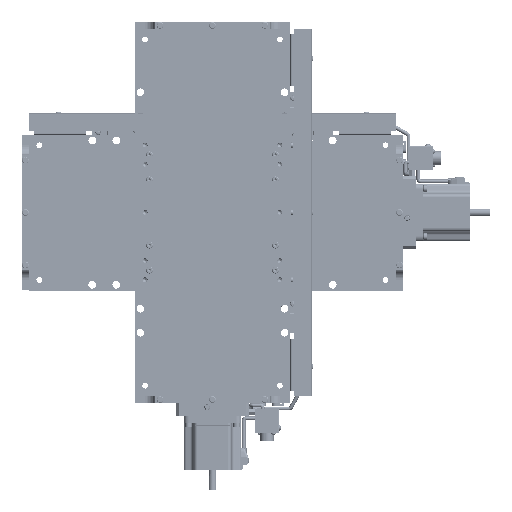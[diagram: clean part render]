
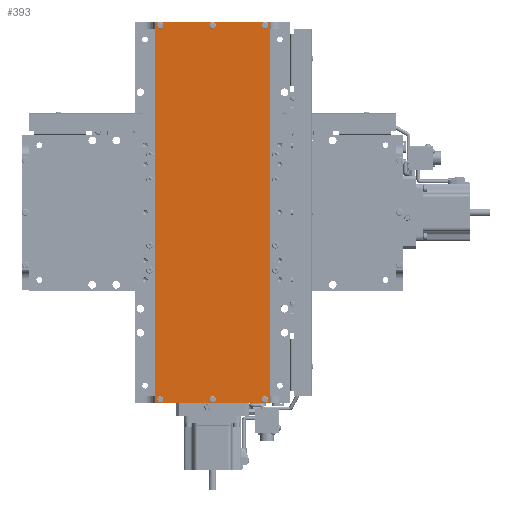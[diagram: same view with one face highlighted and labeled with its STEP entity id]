
A CAD part, top view. The second image highlights one B-rep face of the part: STEP entity #393.
In plain terms, the highlighted planar face has unit normal (0, 0, 1).
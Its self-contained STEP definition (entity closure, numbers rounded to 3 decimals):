
#393=ADVANCED_FACE('',(#7767,#7768,#7769,#7770,#7771,#7772,#7773),#7766,.T.);
#7766=PLANE('',#58397);
#7767=FACE_OUTER_BOUND('',#58398,.T.);
#7768=FACE_BOUND('',#58399,.T.);
#7769=FACE_BOUND('',#58400,.T.);
#7770=FACE_BOUND('',#58401,.T.);
#7771=FACE_BOUND('',#58402,.T.);
#7772=FACE_BOUND('',#58403,.T.);
#7773=FACE_BOUND('',#58404,.T.);
#58394=CARTESIAN_POINT('',(69.5,208.,122.5));
#58395=DIRECTION('',(0.,0.,1.));
#58396=DIRECTION('',(-1.,0.,0.));
#58397=AXIS2_PLACEMENT_3D('',#58394,#58395,#58396);
#58398=EDGE_LOOP('',(#90675,#90676,#90677,#90678,#90679,#90680));
#58399=EDGE_LOOP('',(#90681,#90682));
#58400=EDGE_LOOP('',(#90683,#90684));
#58401=EDGE_LOOP('',(#90685,#90686));
#58402=EDGE_LOOP('',(#90687,#90688));
#58403=EDGE_LOOP('',(#90689,#90690));
#58404=EDGE_LOOP('',(#90691,#90692));
#90675=ORIENTED_EDGE('',*,*,#115372,.T.);
#90676=ORIENTED_EDGE('',*,*,#115403,.T.);
#90677=ORIENTED_EDGE('',*,*,#115342,.T.);
#90678=ORIENTED_EDGE('',*,*,#115404,.T.);
#90679=ORIENTED_EDGE('',*,*,#115387,.F.);
#90680=ORIENTED_EDGE('',*,*,#115405,.T.);
#90681=ORIENTED_EDGE('',*,*,#115406,.F.);
#90682=ORIENTED_EDGE('',*,*,#115407,.F.);
#90683=ORIENTED_EDGE('',*,*,#115408,.F.);
#90684=ORIENTED_EDGE('',*,*,#115409,.F.);
#90685=ORIENTED_EDGE('',*,*,#115410,.F.);
#90686=ORIENTED_EDGE('',*,*,#115411,.F.);
#90687=ORIENTED_EDGE('',*,*,#115412,.F.);
#90688=ORIENTED_EDGE('',*,*,#115413,.F.);
#90689=ORIENTED_EDGE('',*,*,#115414,.F.);
#90690=ORIENTED_EDGE('',*,*,#115415,.F.);
#90691=ORIENTED_EDGE('',*,*,#115416,.F.);
#90692=ORIENTED_EDGE('',*,*,#115417,.F.);
#115342=EDGE_CURVE('',#132944,#133029,#133036,.T.);
#115372=EDGE_CURVE('',#133246,#133239,#133247,.T.);
#115387=EDGE_CURVE('',#133344,#133351,#133352,.T.);
#115403=EDGE_CURVE('',#133239,#132944,#133462,.T.);
#115404=EDGE_CURVE('',#133029,#133351,#133468,.T.);
#115405=EDGE_CURVE('',#133344,#133246,#133474,.T.);
#115406=EDGE_CURVE('',#133480,#133481,#133482,.T.);
#115407=EDGE_CURVE('',#133481,#133480,#133488,.T.);
#115408=EDGE_CURVE('',#133494,#133495,#133496,.T.);
#115409=EDGE_CURVE('',#133495,#133494,#133502,.T.);
#115410=EDGE_CURVE('',#133508,#133509,#133510,.T.);
#115411=EDGE_CURVE('',#133509,#133508,#133516,.T.);
#115412=EDGE_CURVE('',#133522,#133523,#133524,.T.);
#115413=EDGE_CURVE('',#133523,#133522,#133530,.T.);
#115414=EDGE_CURVE('',#133536,#133537,#133538,.T.);
#115415=EDGE_CURVE('',#133537,#133536,#133544,.T.);
#115416=EDGE_CURVE('',#133550,#133551,#133552,.T.);
#115417=EDGE_CURVE('',#133551,#133550,#133558,.T.);
#132944=VERTEX_POINT('',#213782);
#133029=VERTEX_POINT('',#213833);
#133036=LINE('',#213838,#213839);
#133239=VERTEX_POINT('',#213958);
#133246=VERTEX_POINT('',#213962);
#133247=LINE('',#213963,#213964);
#133344=VERTEX_POINT('',#214023);
#133351=VERTEX_POINT('',#214028);
#133352=LINE('',#214029,#214030);
#133462=LINE('',#214096,#214097);
#133468=LINE('',#214099,#214100);
#133474=LINE('',#214102,#214103);
#133480=VERTEX_POINT('',#214105);
#133481=VERTEX_POINT('',#214106);
#133482=CIRCLE('',#214110,3.495);
#133488=CIRCLE('',#214114,3.495);
#133494=VERTEX_POINT('',#214115);
#133495=VERTEX_POINT('',#214116);
#133496=CIRCLE('',#214120,3.495);
#133502=CIRCLE('',#214124,3.495);
#133508=VERTEX_POINT('',#214125);
#133509=VERTEX_POINT('',#214126);
#133510=CIRCLE('',#214130,3.495);
#133516=CIRCLE('',#214134,3.495);
#133522=VERTEX_POINT('',#214135);
#133523=VERTEX_POINT('',#214136);
#133524=CIRCLE('',#214140,3.495);
#133530=CIRCLE('',#214144,3.495);
#133536=VERTEX_POINT('',#214145);
#133537=VERTEX_POINT('',#214146);
#133538=CIRCLE('',#214150,3.495);
#133544=CIRCLE('',#214154,3.495);
#133550=VERTEX_POINT('',#214155);
#133551=VERTEX_POINT('',#214156);
#133552=CIRCLE('',#214160,3.495);
#133558=CIRCLE('',#214164,3.495);
#213782=CARTESIAN_POINT('',(35.,-198.,122.5));
#213833=CARTESIAN_POINT('',(59.5,-198.,122.5));
#213838=CARTESIAN_POINT('',(35.,-198.,122.5));
#213839=VECTOR('',#213840,24.5);
#213840=DIRECTION('',(1.,0.,0.));
#213958=CARTESIAN_POINT('',(-35.,-198.,122.5));
#213962=CARTESIAN_POINT('',(-59.5,-198.,122.5));
#213963=CARTESIAN_POINT('',(-59.5,-198.,122.5));
#213964=VECTOR('',#213965,24.5);
#213965=DIRECTION('',(1.,0.,0.));
#214023=CARTESIAN_POINT('',(-59.5,198.,122.5));
#214028=CARTESIAN_POINT('',(59.5,198.,122.5));
#214029=CARTESIAN_POINT('',(-59.5,198.,122.5));
#214030=VECTOR('',#214031,119.);
#214031=DIRECTION('',(1.,0.,0.));
#214096=CARTESIAN_POINT('',(-35.,-198.,122.5));
#214097=VECTOR('',#214098,70.);
#214098=DIRECTION('',(1.,0.,0.));
#214099=CARTESIAN_POINT('',(59.5,-198.,122.5));
#214100=VECTOR('',#214101,396.);
#214101=DIRECTION('',(0.,1.,0.));
#214102=CARTESIAN_POINT('',(-59.5,198.,122.5));
#214103=VECTOR('',#214104,396.);
#214104=DIRECTION('',(0.,-1.,0.));
#214105=CARTESIAN_POINT('',(3.495,194.5,122.5));
#214106=CARTESIAN_POINT('',(-3.495,194.5,122.5));
#214107=CARTESIAN_POINT('',(0.,194.5,122.5));
#214108=DIRECTION('',(0.,0.,1.));
#214109=DIRECTION('',(-1.,0.,0.));
#214110=AXIS2_PLACEMENT_3D('',#214107,#214108,#214109);
#214111=CARTESIAN_POINT('',(0.,194.5,122.5));
#214112=DIRECTION('',(0.,0.,1.));
#214113=DIRECTION('',(-1.,0.,0.));
#214114=AXIS2_PLACEMENT_3D('',#214111,#214112,#214113);
#214115=CARTESIAN_POINT('',(-51.005,194.5,122.5));
#214116=CARTESIAN_POINT('',(-57.995,194.5,122.5));
#214117=CARTESIAN_POINT('',(-54.5,194.5,122.5));
#214118=DIRECTION('',(0.,0.,1.));
#214119=DIRECTION('',(-1.,0.,0.));
#214120=AXIS2_PLACEMENT_3D('',#214117,#214118,#214119);
#214121=CARTESIAN_POINT('',(-54.5,194.5,122.5));
#214122=DIRECTION('',(0.,0.,1.));
#214123=DIRECTION('',(-1.,0.,0.));
#214124=AXIS2_PLACEMENT_3D('',#214121,#214122,#214123);
#214125=CARTESIAN_POINT('',(57.995,-194.5,122.5));
#214126=CARTESIAN_POINT('',(51.005,-194.5,122.5));
#214127=CARTESIAN_POINT('',(54.5,-194.5,122.5));
#214128=DIRECTION('',(0.,0.,1.));
#214129=DIRECTION('',(-1.,0.,0.));
#214130=AXIS2_PLACEMENT_3D('',#214127,#214128,#214129);
#214131=CARTESIAN_POINT('',(54.5,-194.5,122.5));
#214132=DIRECTION('',(0.,0.,1.));
#214133=DIRECTION('',(-1.,0.,0.));
#214134=AXIS2_PLACEMENT_3D('',#214131,#214132,#214133);
#214135=CARTESIAN_POINT('',(3.495,-194.5,122.5));
#214136=CARTESIAN_POINT('',(-3.495,-194.5,122.5));
#214137=CARTESIAN_POINT('',(0.,-194.5,122.5));
#214138=DIRECTION('',(0.,0.,1.));
#214139=DIRECTION('',(-1.,0.,0.));
#214140=AXIS2_PLACEMENT_3D('',#214137,#214138,#214139);
#214141=CARTESIAN_POINT('',(0.,-194.5,122.5));
#214142=DIRECTION('',(0.,0.,1.));
#214143=DIRECTION('',(-1.,0.,0.));
#214144=AXIS2_PLACEMENT_3D('',#214141,#214142,#214143);
#214145=CARTESIAN_POINT('',(-51.005,-194.5,122.5));
#214146=CARTESIAN_POINT('',(-57.995,-194.5,122.5));
#214147=CARTESIAN_POINT('',(-54.5,-194.5,122.5));
#214148=DIRECTION('',(0.,0.,1.));
#214149=DIRECTION('',(-1.,0.,0.));
#214150=AXIS2_PLACEMENT_3D('',#214147,#214148,#214149);
#214151=CARTESIAN_POINT('',(-54.5,-194.5,122.5));
#214152=DIRECTION('',(0.,0.,1.));
#214153=DIRECTION('',(-1.,0.,0.));
#214154=AXIS2_PLACEMENT_3D('',#214151,#214152,#214153);
#214155=CARTESIAN_POINT('',(57.995,194.5,122.5));
#214156=CARTESIAN_POINT('',(51.005,194.5,122.5));
#214157=CARTESIAN_POINT('',(54.5,194.5,122.5));
#214158=DIRECTION('',(0.,0.,1.));
#214159=DIRECTION('',(-1.,0.,0.));
#214160=AXIS2_PLACEMENT_3D('',#214157,#214158,#214159);
#214161=CARTESIAN_POINT('',(54.5,194.5,122.5));
#214162=DIRECTION('',(0.,0.,1.));
#214163=DIRECTION('',(-1.,0.,0.));
#214164=AXIS2_PLACEMENT_3D('',#214161,#214162,#214163);
